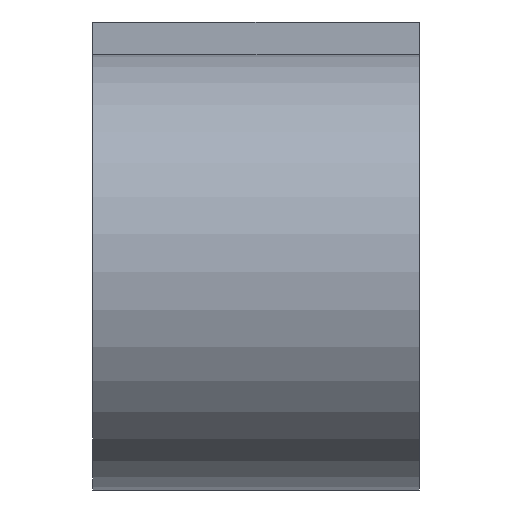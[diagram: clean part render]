
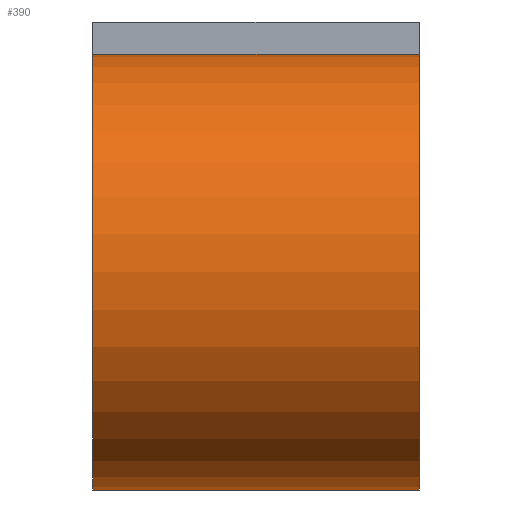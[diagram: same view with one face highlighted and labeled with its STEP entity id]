
A CAD part, left-side view. The second image highlights one B-rep face of the part: STEP entity #390.
In plain terms, the highlighted cylindrical face has radius 9.05 mm (diameter 18.1 mm), a partial arc.
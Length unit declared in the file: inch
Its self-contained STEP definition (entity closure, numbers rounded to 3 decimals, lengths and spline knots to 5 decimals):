
#4 = DIRECTION ( 'NONE',  ( 1., 0., 0. ) ) ;
#14 = DIRECTION ( 'NONE',  ( 0., 1., 0. ) ) ;
#16 = CARTESIAN_POINT ( 'NONE',  ( -0.88635, 0.433, 0. ) ) ;
#24 = EDGE_CURVE ( 'NONE', #86, #404, #151, .T. ) ;
#49 = VECTOR ( 'NONE', #622, 39.37008 ) ;
#76 = AXIS2_PLACEMENT_3D ( 'NONE', #163, #14, #4 ) ;
#86 = VERTEX_POINT ( 'NONE', #251 ) ;
#99 = DIRECTION ( 'NONE',  ( 0., -1., 0. ) ) ;
#101 = VECTOR ( 'NONE', #400, 39.37008 ) ;
#110 = CIRCLE ( 'NONE', #258, 0.3563 ) ;
#116 = CARTESIAN_POINT ( 'NONE',  ( -0.88635, 0.433, 0.3563 ) ) ;
#151 = LINE ( 'NONE', #194, #101 ) ;
#163 = CARTESIAN_POINT ( 'NONE',  ( -0.88635, 0.433, 0. ) ) ;
#194 = CARTESIAN_POINT ( 'NONE',  ( -0.88635, 0.433, -0.3563 ) ) ;
#205 = CARTESIAN_POINT ( 'NONE',  ( -0.88635, -0.1, 0. ) ) ;
#229 = DIRECTION ( 'NONE',  ( 0., -1., 0. ) ) ;
#233 = ORIENTED_EDGE ( 'NONE', *, *, #476, .F. ) ;
#251 = CARTESIAN_POINT ( 'NONE',  ( -0.88635, 0.433, -0.3563 ) ) ;
#258 = AXIS2_PLACEMENT_3D ( 'NONE', #205, #99, #266 ) ;
#266 = DIRECTION ( 'NONE',  ( 0., 0., -1. ) ) ;
#270 = AXIS2_PLACEMENT_3D ( 'NONE', #16, #229, #668 ) ;
#280 = ORIENTED_EDGE ( 'NONE', *, *, #608, .F. ) ;
#350 = VERTEX_POINT ( 'NONE', #116 ) ;
#390 = ADVANCED_FACE ( 'NONE', ( #487 ), #494, .T. ) ;
#396 = EDGE_CURVE ( 'NONE', #553, #404, #110, .T. ) ;
#400 = DIRECTION ( 'NONE',  ( 0., -1., 0. ) ) ;
#404 = VERTEX_POINT ( 'NONE', #415 ) ;
#406 = CARTESIAN_POINT ( 'NONE',  ( -0.88635, 0.433, 0.3563 ) ) ;
#415 = CARTESIAN_POINT ( 'NONE',  ( -0.88635, -0.1, -0.3563 ) ) ;
#424 = ORIENTED_EDGE ( 'NONE', *, *, #24, .T. ) ;
#476 = EDGE_CURVE ( 'NONE', #350, #553, #570, .T. ) ;
#487 = FACE_OUTER_BOUND ( 'NONE', #626, .T. ) ;
#494 = CYLINDRICAL_SURFACE ( 'NONE', #270, 0.3563 ) ;
#522 = CIRCLE ( 'NONE', #76, 0.3563 ) ;
#536 = ORIENTED_EDGE ( 'NONE', *, *, #396, .F. ) ;
#553 = VERTEX_POINT ( 'NONE', #644 ) ;
#570 = LINE ( 'NONE', #406, #49 ) ;
#608 = EDGE_CURVE ( 'NONE', #86, #350, #522, .T. ) ;
#622 = DIRECTION ( 'NONE',  ( 0., -1., 0. ) ) ;
#626 = EDGE_LOOP ( 'NONE', ( #424, #536, #233, #280 ) ) ;
#644 = CARTESIAN_POINT ( 'NONE',  ( -0.88635, -0.1, 0.3563 ) ) ;
#668 = DIRECTION ( 'NONE',  ( 0., 0., -1. ) ) ;
